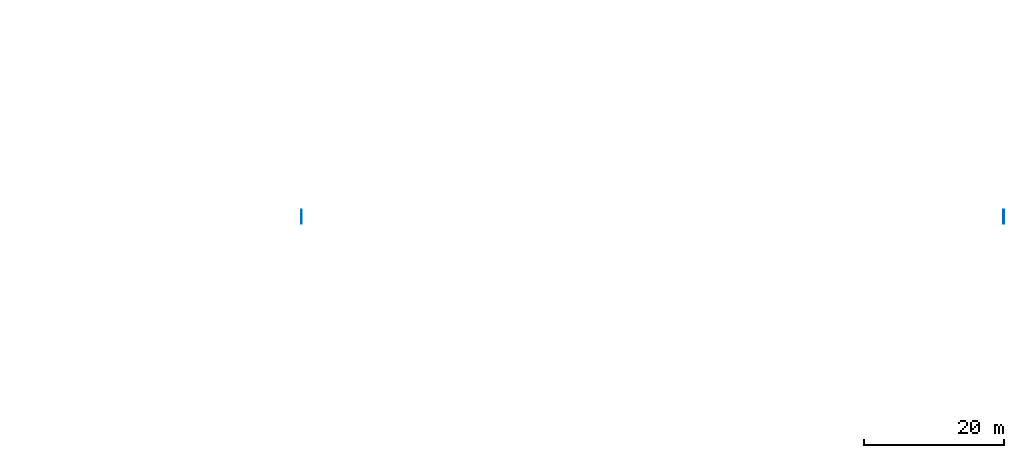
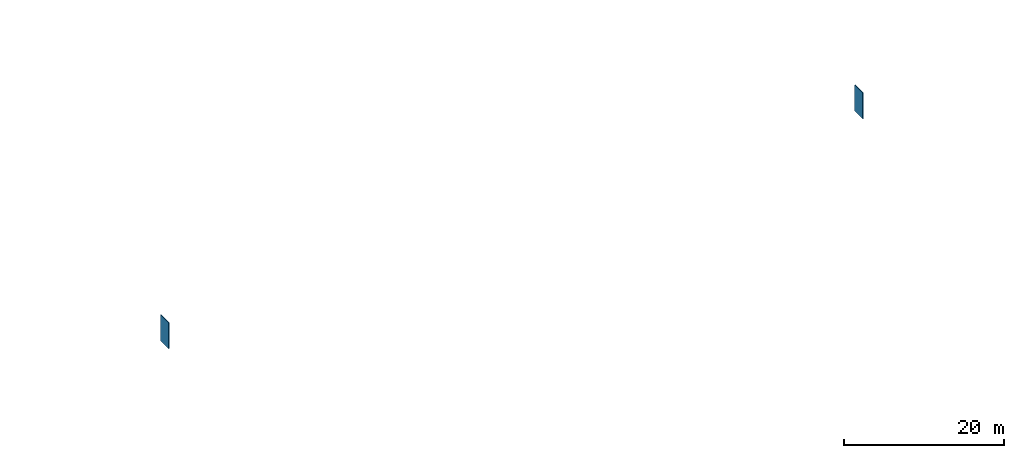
# One storey, part 70 of 164: 2 walls.
"""IFC2X3 building model written with IfcOpenShell, lengths in millimetres."""

from ifc_helpers import new_model, entity, si_unit, converted_unit, derived_unit, direction, frame, frame_2d, origin, place, context, subcontext, project, spatial, rectangle, extrude, material, layer, layer_set, layer_usage, type_object, element, save


model = new_model("IFC2X3")

# Units and contexts
model_context = context("Model", 3, precision=0.01, world=origin(), true_north=direction((6.12303176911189e-17, 1.0)))
body_context = subcontext(model_context, "Body", "Model", "MODEL_VIEW")
ifc_project = project(units=[si_unit("LENGTHUNIT", "METRE", prefix="MILLI"), si_unit("AREAUNIT", "SQUARE_METRE"), si_unit("VOLUMEUNIT", "CUBIC_METRE"), converted_unit("PLANEANGLEUNIT", "DEGREE", entity("IfcRatioMeasure", 0.0174532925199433), si_unit("PLANEANGLEUNIT", "RADIAN"), dimensions=[0, 0, 0, 0, 0, 0, 0]), si_unit("MASSUNIT", "GRAM", prefix="KILO"), derived_unit("MASSDENSITYUNIT", [(si_unit("MASSUNIT", "GRAM", prefix="KILO"), 1), (si_unit("LENGTHUNIT", "METRE"), -3)]), derived_unit("MOMENTOFINERTIAUNIT", [(si_unit("LENGTHUNIT", "METRE"), 4)]), si_unit("TIMEUNIT", "SECOND"), si_unit("FREQUENCYUNIT", "HERTZ"), si_unit("THERMODYNAMICTEMPERATUREUNIT", "DEGREE_CELSIUS"), derived_unit("THERMALTRANSMITTANCEUNIT", [(si_unit("MASSUNIT", "GRAM", prefix="KILO"), 1), (si_unit("THERMODYNAMICTEMPERATUREUNIT", "KELVIN"), -1), (si_unit("TIMEUNIT", "SECOND"), -3)]), derived_unit("VOLUMETRICFLOWRATEUNIT", [(si_unit("LENGTHUNIT", "METRE"), 3), (si_unit("TIMEUNIT", "SECOND"), -1)]), si_unit("ELECTRICCURRENTUNIT", "AMPERE"), si_unit("ELECTRICVOLTAGEUNIT", "VOLT"), si_unit("POWERUNIT", "WATT"), si_unit("FORCEUNIT", "NEWTON", prefix="KILO"), si_unit("ILLUMINANCEUNIT", "LUX"), si_unit("LUMINOUSFLUXUNIT", "LUMEN"), si_unit("LUMINOUSINTENSITYUNIT", "CANDELA"), derived_unit("USERDEFINED", [(si_unit("MASSUNIT", "GRAM", prefix="KILO"), -1), (si_unit("LENGTHUNIT", "METRE"), -2), (si_unit("TIMEUNIT", "SECOND"), 3), (si_unit("LUMINOUSFLUXUNIT", "LUMEN"), 1)]), derived_unit("LINEARVELOCITYUNIT", [(si_unit("LENGTHUNIT", "METRE"), 1), (si_unit("TIMEUNIT", "SECOND"), -1)]), si_unit("PRESSUREUNIT", "PASCAL"), derived_unit("USERDEFINED", [(si_unit("LENGTHUNIT", "METRE"), -2), (si_unit("MASSUNIT", "GRAM", prefix="KILO"), 1), (si_unit("TIMEUNIT", "SECOND"), -2)]), derived_unit("LINEARFORCEUNIT", [(si_unit("MASSUNIT", "GRAM", prefix="KILO"), 1), (si_unit("LENGTHUNIT", "METRE"), 1), (si_unit("TIMEUNIT", "SECOND"), -2), (si_unit("LENGTHUNIT", "METRE"), -1)]), derived_unit("PLANARFORCEUNIT", [(si_unit("MASSUNIT", "GRAM", prefix="KILO"), 1), (si_unit("LENGTHUNIT", "METRE"), 1), (si_unit("TIMEUNIT", "SECOND"), -2), (si_unit("LENGTHUNIT", "METRE"), -2)])], contexts=[model_context])

# Site, building, storey
site_placement = place(None, origin())
site = spatial("IfcSite", under=ifc_project, at=site_placement, Name="Default", CompositionType="ELEMENT")
building_placement = place(site_placement, origin())
building = spatial("IfcBuilding", under=site, at=building_placement, CompositionType="ELEMENT")
storey_placement = place(building_placement, origin())
storey = spatial("IfcBuildingStorey", under=building, at=storey_placement, Name="Level 1", CompositionType="ELEMENT", Elevation=0.0)

# Walls
ifc_material = material(Name="Default Wall")
ifc_layer = layer(ifc_material, 100.0)
ifc_layer_set = layer_set([ifc_layer], Name="Basic Wall:Generic - 100mm")
ifc_layer_usage_1 = layer_usage(ifc_layer_set, "AXIS2", "NEGATIVE", 50.0)
wall_type = type_object("IfcWallType", Name="Basic Wall:Generic - 100mm", PredefinedType="STANDARD", material=ifc_layer_set)
wall_1_placement = place(storey_placement, frame((1800050.0, 201000.0, 0.0), z_axis=(0.0, 0.0, 1.0), x_axis=(0.0, -1.0, 0.0)))
element("IfcWallStandardCase", 1, at=wall_1_placement, inside=storey, type_object=wall_type, material=ifc_layer_usage_1, Name="Basic Wall:Generic - 100mm", ObjectType="Basic Wall:Generic - 100mm", context=body_context, shape_type="SweptSolid", body=[
    extrude(rectangle(XDim=2000.00000000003, YDim=100.000000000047, at=frame_2d((1000.00000000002, 1.60582658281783e-12), x_axis=(-1.0, 0.0))), origin(), (0.0, 0.0, 1.0), 4000.0),
])
ifc_layer_usage_2 = layer_usage(ifc_layer_set, "AXIS2", "NEGATIVE", 50.0)
wall_2_placement = place(storey_placement, frame((1900050.0, 201000.0, 0.0), z_axis=(0.0, 0.0, 1.0), x_axis=(0.0, -1.0, 0.0)))
element("IfcWallStandardCase", 2, at=wall_2_placement, inside=storey, type_object=wall_type, material=ifc_layer_usage_2, Name="Basic Wall:Generic - 100mm", ObjectType="Basic Wall:Generic - 100mm", context=body_context, shape_type="SweptSolid", body=[
    extrude(rectangle(XDim=2000.00000000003, YDim=100.000000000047, at=frame_2d((1000.00000000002, 1.60582658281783e-12), x_axis=(-1.0, 0.0))), origin(), (0.0, 0.0, 1.0), 4000.0),
])

save(model, "model.ifc")
